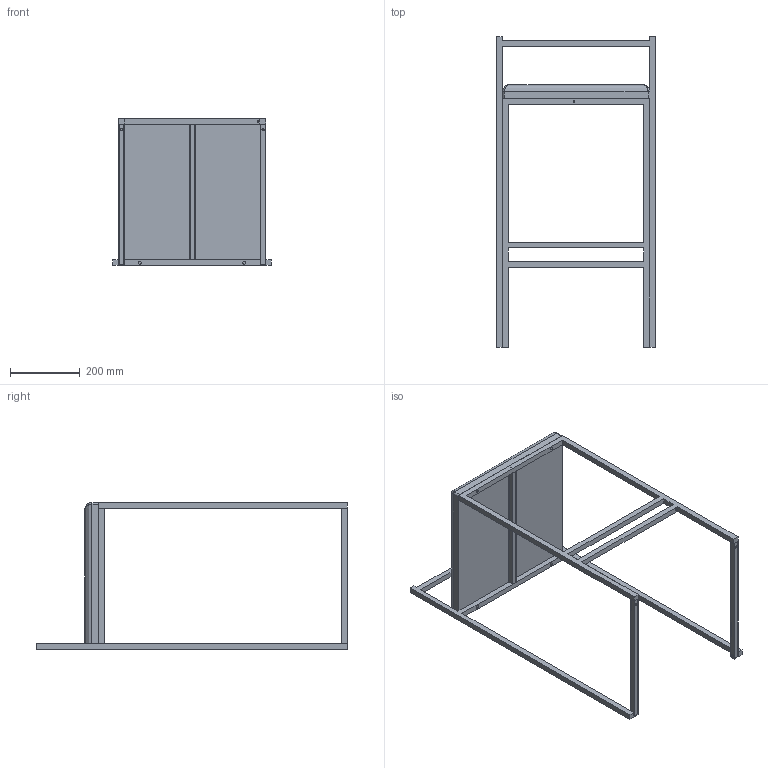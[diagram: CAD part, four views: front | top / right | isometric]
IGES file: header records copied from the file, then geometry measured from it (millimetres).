
Start section: SolidWorks IGES file using analytic representation for surfaces
Global section: file name: C:\Users\hcaixa\Documents\Gabinete Tecnico\72_produtos cliente\Timsteel\Estantes\Estantes  Q16\Q16 versão catalogo\Assemblys\IGS\Novas Peças\Banco Alto q16.IGS; native system: SolidWorks 2014; preprocessor: SolidWorks 2014; author: hcaixa; date: 190704.114350; units: millimetre
Bounding box: 454 x 888 x 420.01 mm (x, y, z)
Surface area: 879138.8 mm2 (no closed solid volume)
Topology: 0 solids, 0 shells, 146 faces, 1992 edges, 1988 vertices
Faces by surface type: bspline 96, revolution 50
